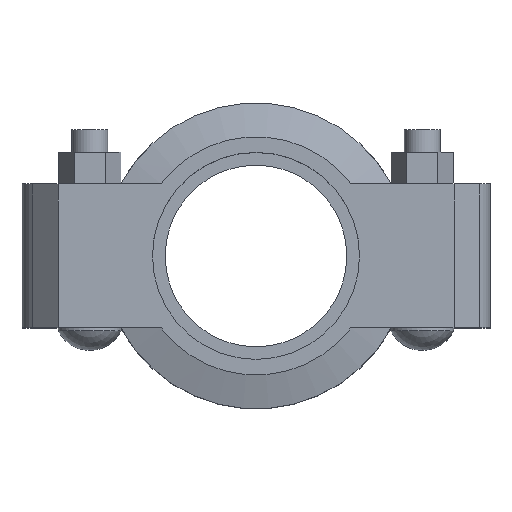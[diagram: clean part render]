
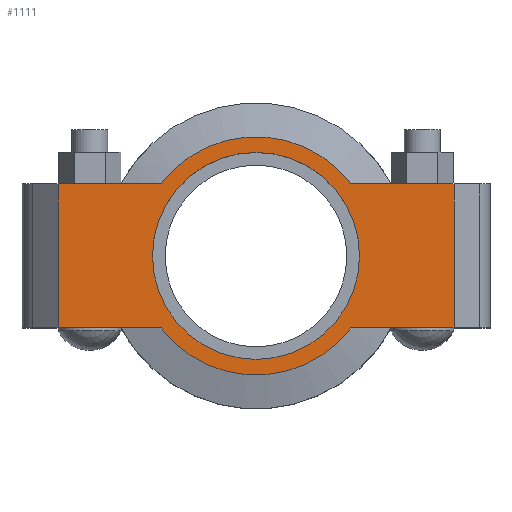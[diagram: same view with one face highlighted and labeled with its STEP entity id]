
A CAD part, top view. The second image highlights one B-rep face of the part: STEP entity #1111.
In plain terms, the highlighted planar face has unit normal (0, 0, 1).
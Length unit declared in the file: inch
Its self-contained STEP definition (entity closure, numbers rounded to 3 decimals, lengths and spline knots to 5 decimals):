
#75=FACE_BOUND('',#226,.T.);
#105=PLANE('',#1226);
#153=FACE_OUTER_BOUND('',#225,.T.);
#225=EDGE_LOOP('',(#888,#889,#890,#891,#892,#893,#894,#895));
#226=EDGE_LOOP('',(#896));
#298=LINE('',#1752,#385);
#313=LINE('',#1811,#400);
#321=LINE('',#1841,#408);
#323=LINE('',#1844,#410);
#324=LINE('',#1849,#411);
#325=LINE('',#1850,#412);
#385=VECTOR('',#1433,0.3937);
#400=VECTOR('',#1468,0.3937);
#408=VECTOR('',#1488,0.3937);
#410=VECTOR('',#1492,0.3937);
#411=VECTOR('',#1497,0.3937);
#412=VECTOR('',#1498,0.3937);
#437=CIRCLE('',#1183,1.4375);
#453=CIRCLE('',#1227,1.655);
#454=CIRCLE('',#1228,1.655);
#480=VERTEX_POINT('',#1644);
#515=VERTEX_POINT('',#1749);
#516=VERTEX_POINT('',#1751);
#537=VERTEX_POINT('',#1806);
#538=VERTEX_POINT('',#1810);
#547=VERTEX_POINT('',#1836);
#548=VERTEX_POINT('',#1840);
#549=VERTEX_POINT('',#1846);
#550=VERTEX_POINT('',#1848);
#581=EDGE_CURVE('',#480,#480,#437,.T.);
#632=EDGE_CURVE('',#516,#515,#298,.T.);
#657=EDGE_CURVE('',#538,#537,#313,.T.);
#670=EDGE_CURVE('',#548,#547,#321,.T.);
#672=EDGE_CURVE('',#548,#515,#323,.T.);
#673=EDGE_CURVE('',#547,#549,#453,.T.);
#674=EDGE_CURVE('',#549,#550,#324,.T.);
#675=EDGE_CURVE('',#538,#550,#325,.T.);
#676=EDGE_CURVE('',#537,#516,#454,.T.);
#888=ORIENTED_EDGE('',*,*,#672,.F.);
#889=ORIENTED_EDGE('',*,*,#670,.T.);
#890=ORIENTED_EDGE('',*,*,#673,.T.);
#891=ORIENTED_EDGE('',*,*,#674,.T.);
#892=ORIENTED_EDGE('',*,*,#675,.F.);
#893=ORIENTED_EDGE('',*,*,#657,.T.);
#894=ORIENTED_EDGE('',*,*,#676,.T.);
#895=ORIENTED_EDGE('',*,*,#632,.T.);
#896=ORIENTED_EDGE('',*,*,#581,.T.);
#1111=ADVANCED_FACE('',(#153,#75),#105,.T.);
#1183=AXIS2_PLACEMENT_3D('',#1646,#1337,#1338);
#1226=AXIS2_PLACEMENT_3D('',#1845,#1493,#1494);
#1227=AXIS2_PLACEMENT_3D('',#1847,#1495,#1496);
#1228=AXIS2_PLACEMENT_3D('',#1851,#1499,#1500);
#1337=DIRECTION('center_axis',(0.,0.,-1.));
#1338=DIRECTION('ref_axis',(1.,0.,0.));
#1433=DIRECTION('',(1.,0.,0.));
#1468=DIRECTION('',(1.,0.,0.));
#1488=DIRECTION('',(-1.,0.,0.));
#1492=DIRECTION('',(0.,-1.,0.));
#1493=DIRECTION('center_axis',(0.,0.,1.));
#1494=DIRECTION('ref_axis',(-1.,0.,0.));
#1495=DIRECTION('center_axis',(0.,0.,1.));
#1496=DIRECTION('ref_axis',(1.,0.,0.));
#1497=DIRECTION('',(-1.,0.,0.));
#1498=DIRECTION('',(0.,1.,0.));
#1499=DIRECTION('center_axis',(0.,0.,1.));
#1500=DIRECTION('ref_axis',(1.,0.,0.));
#1644=CARTESIAN_POINT('',(-1.4375,0.,0.94));
#1646=CARTESIAN_POINT('Origin',(0.,0.,0.94));
#1749=CARTESIAN_POINT('',(2.75,-1.,0.94));
#1751=CARTESIAN_POINT('',(1.31872,-1.,0.94));
#1752=CARTESIAN_POINT('',(-3.25,-1.,0.94));
#1806=CARTESIAN_POINT('',(-1.31872,-1.,0.94));
#1810=CARTESIAN_POINT('',(-2.75,-1.,0.94));
#1811=CARTESIAN_POINT('',(-3.25,-1.,0.94));
#1836=CARTESIAN_POINT('',(1.31872,1.,0.94));
#1840=CARTESIAN_POINT('',(2.75,1.,0.94));
#1841=CARTESIAN_POINT('',(3.25,1.,0.94));
#1844=CARTESIAN_POINT('',(2.75,-0.5,0.94));
#1845=CARTESIAN_POINT('Origin',(0.,0.,
0.94));
#1846=CARTESIAN_POINT('',(-1.31872,1.,0.94));
#1847=CARTESIAN_POINT('Origin',(0.,0.,0.94));
#1848=CARTESIAN_POINT('',(-2.75,1.,0.94));
#1849=CARTESIAN_POINT('',(3.25,1.,0.94));
#1850=CARTESIAN_POINT('',(-2.75,0.5,0.94));
#1851=CARTESIAN_POINT('Origin',(0.,0.,0.94));
